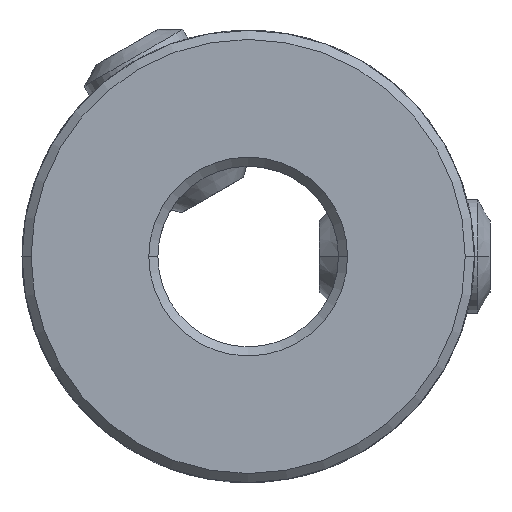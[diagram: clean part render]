
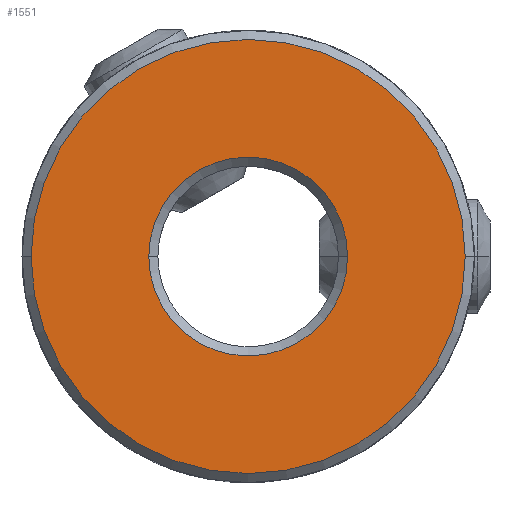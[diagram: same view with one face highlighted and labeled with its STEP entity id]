
A CAD part, front view. The second image highlights one B-rep face of the part: STEP entity #1551.
In plain terms, the highlighted planar face has unit normal (0, -1, 0).
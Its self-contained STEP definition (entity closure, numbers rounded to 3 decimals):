
#2=CARTESIAN_POINT('',(0.,-10.15,
0.));
#3=DIRECTION('',(0.,-1.,0.));
#4=DIRECTION('',(1.,0.,0.));
#5=AXIS2_PLACEMENT_3D('',#2,#3,#4);
#7=CARTESIAN_POINT('',(0.,-10.15,
0.));
#8=DIRECTION('',(0.,-1.,0.));
#9=DIRECTION('',(-1.,0.,0.));
#10=AXIS2_PLACEMENT_3D('',#7,#8,#9);
#12=CARTESIAN_POINT('',(0.,-10.15,0.));
#13=DIRECTION('',(0.,1.,0.));
#14=DIRECTION('',(1.,0.,0.));
#15=AXIS2_PLACEMENT_3D('',#12,#13,#14);
#17=CARTESIAN_POINT('',(0.,-10.15,0.));
#18=DIRECTION('',(0.,1.,0.));
#19=DIRECTION('',(-1.,0.,0.));
#20=AXIS2_PLACEMENT_3D('',#17,#18,#19);
#1408=CARTESIAN_POINT('',(3.495,-10.15,0.));
#1409=CARTESIAN_POINT('',(-3.495,-10.15,0.));
#1410=VERTEX_POINT('',#1408);
#1411=VERTEX_POINT('',#1409);
#1424=CARTESIAN_POINT('',(7.63,-10.15,0.));
#1425=CARTESIAN_POINT('',(-7.63,-10.15,0.));
#1426=VERTEX_POINT('',#1424);
#1427=VERTEX_POINT('',#1425);
#1534=CARTESIAN_POINT('',(0.,-10.15,0.));
#1535=DIRECTION('',(0.,1.,0.));
#1536=DIRECTION('',(1.,0.,0.));
#1537=AXIS2_PLACEMENT_3D('',#1534,#1535,#1536);
#1538=PLANE('',#1537);
#1540=ORIENTED_EDGE('',*,*,#1539,.F.);
#1542=ORIENTED_EDGE('',*,*,#1541,.F.);
#1543=EDGE_LOOP('',(#1540,#1542));
#1544=FACE_OUTER_BOUND('',#1543,.F.);
#1546=ORIENTED_EDGE('',*,*,#1545,.F.);
#1548=ORIENTED_EDGE('',*,*,#1547,.F.);
#1549=EDGE_LOOP('',(#1546,#1548));
#1550=FACE_BOUND('',#1549,.F.);
#1551=ADVANCED_FACE('',(#1544,#1550),#1538,.F.);
#6=CIRCLE('',#5,7.63);
#11=CIRCLE('',#10,7.63);
#16=CIRCLE('',#15,3.495);
#21=CIRCLE('',#20,3.495);
#1539=EDGE_CURVE('',#1426,#1427,#6,.T.);
#1541=EDGE_CURVE('',#1427,#1426,#11,.T.);
#1545=EDGE_CURVE('',#1410,#1411,#16,.T.);
#1547=EDGE_CURVE('',#1411,#1410,#21,.T.);
